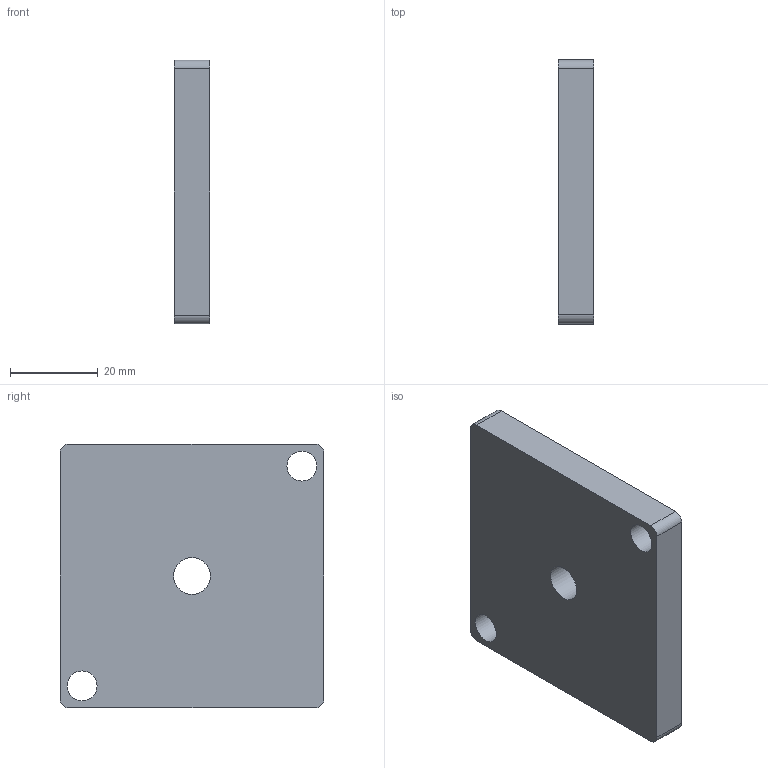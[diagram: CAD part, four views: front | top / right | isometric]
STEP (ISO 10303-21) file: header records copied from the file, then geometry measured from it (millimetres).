
FILE_DESCRIPTION(/* description */ ('ENDPLATE FOR FOOT M10, PROFILE 60x60'),/* implementation_level */ '2;1');
FILE_NAME(/* name */ '\\carryline.intra\privat\users\mathias\Desktop\Tillfälliga filer\100-1168.stp',/* time_stamp */ '2018-11-19T11:04:36+01:00',/* author */ ('ML'),/* organization */ ('CARRYLINE'),/* preprocessor_version */ 'ST-DEVELOPER v17',/* originating_system */ 'Autodesk Inventor 2018',/* authorisation */ '');
FILE_SCHEMA (('AUTOMOTIVE_DESIGN { 1 0 10303 214 3 1 1 }'));
Length unit declared in the file: millimetre
Products named in the file (1): 100-1168
Bounding box: 8 x 60 x 60 mm (x, y, z)
Volume: 27750.7 mm3; surface area: 9382.5 mm2
Topology: 1 solids, 1 shells, 13 faces, 36 edges, 25 vertices
Faces by surface type: cylinder 7, plane 6
Full cylindrical faces by diameter (mm): 6.8 x2, 8.376 x1
Entity records: 482 total; most frequent: DIRECTION 81, CARTESIAN_POINT 75, ORIENTED_EDGE 72, EDGE_CURVE 36, AXIS2_PLACEMENT_3D 31, VERTEX_POINT 25, EDGE_LOOP 19, LINE 19
